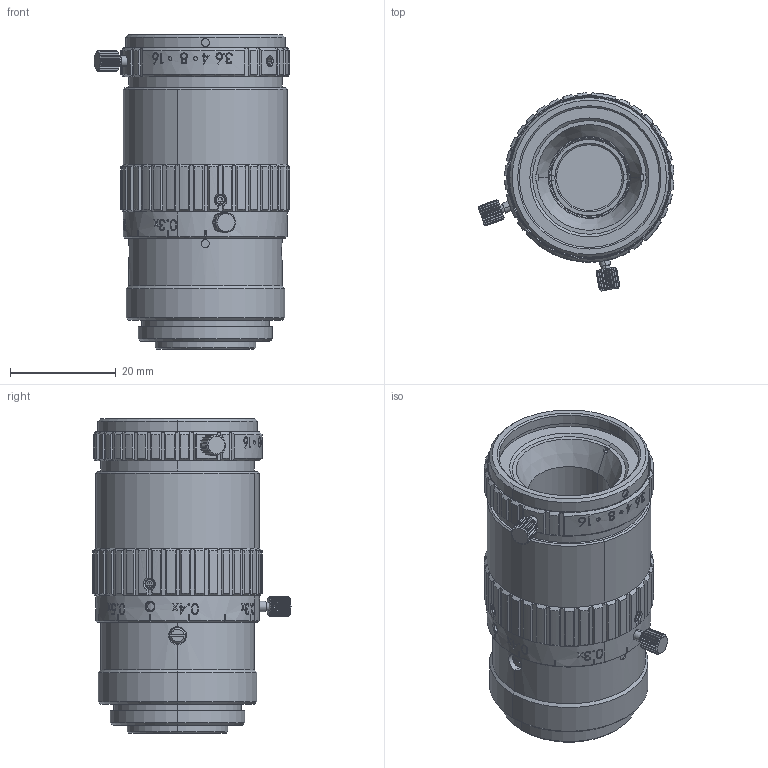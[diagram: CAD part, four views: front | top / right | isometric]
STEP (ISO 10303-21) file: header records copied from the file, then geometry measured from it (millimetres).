
FILE_DESCRIPTION (( 'STEP AP203' ), '1' );
FILE_NAME ('ML-MC35HR_A20965A0000101A-001.STEP', '2014-02-03T06:37:13', ( '' ), ( '' ), 'SwSTEP 2.0', 'SolidWorks 2011', '' );
FILE_SCHEMA (( 'CONFIG_CONTROL_DESIGN' ));
Length unit declared in the file: millimetre
Products named in the file (5): ML-MC35HR_A20965A0000101A-001; ML-MC35HR_A20965A0000101A-001_D_Default; ML-MC35HR_A20965A0000101A-001_C_Default; ML-MC35HR_A20965A0000101A-001_B_Default; ML-MC35HR_A20965A0000101A-001_A_Default
Assembly tree (4 placements, depth 2):
  ML-MC35HR_A20965A0000101A-001
    ML-MC35HR_A20965A0000101A-001_C_Default
    ML-MC35HR_A20965A0000101A-001_A_Default
    ML-MC35HR_A20965A0000101A-001_D_Default
    ML-MC35HR_A20965A0000101A-001_B_Default
Bounding box: 37.03 x 37.45 x 59.5 mm (x, y, z)
Volume: 32495.5 mm3; surface area: 23928.7 mm2
Topology: 4 solids, 4 shells, 1191 faces, 3265 edges, 2143 vertices
Faces by surface type: plane 469, cylinder 403, bspline 210, cone 109
Entity records: 60315 total; most frequent: CARTESIAN_POINT 32750, ORIENTED_EDGE 6522, DIRECTION 4289, EDGE_CURVE 3261, VERTEX_POINT 2143, AXIS2_PLACEMENT_3D 1649, B_SPLINE_CURVE_WITH_KNOTS 1597, EDGE_LOOP 1282
